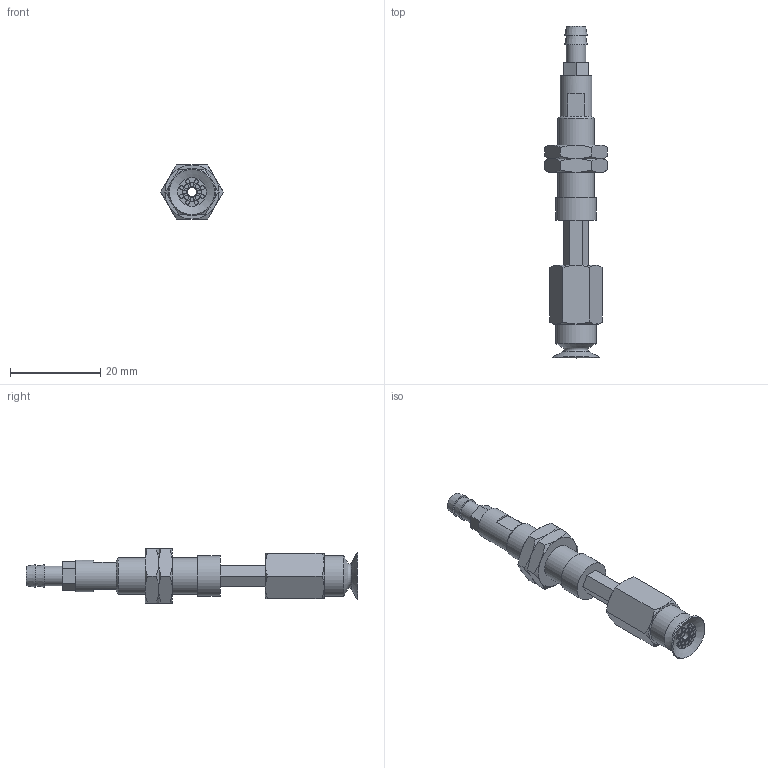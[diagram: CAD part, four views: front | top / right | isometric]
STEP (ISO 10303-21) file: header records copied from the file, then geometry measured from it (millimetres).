
FILE_DESCRIPTION(('STEP AP203'),'1');
FILE_NAME('-T.stp','2025-08-12T07:53:00',(' '),(' '),'Spatial InterOp 3D',' ',' ');
FILE_SCHEMA(('CONFIG_CONTROL_DESIGN'));
Length unit declared in the file: millimetre
Products named in the file (7): BNABPATH-10A-10-※-T; NAPATH-10A-10--F; Nut-10A-S; CONNECTOR-10A-3-T-PA; BPAG-10A-※; NAPATH-10A-10--M; ADAPTER
Assembly tree (7 placements, depth 2):
  BNABPATH-10A-10-※-T
    NAPATH-10A-10--F
    Nut-10A-S  x2
    CONNECTOR-10A-3-T-PA
    BPAG-10A-※
    NAPATH-10A-10--M
    ADAPTER
Bounding box: 13.86 x 73.5 x 12 mm (x, y, z)
Volume: 3670.5 mm3; surface area: 4565.1 mm2
Topology: 7 solids, 7 shells, 173 faces, 347 edges, 215 vertices
Faces by surface type: plane 81, cone 49, cylinder 33, torus 10
Full cylindrical faces by diameter (mm): 0.9 x16, 2 x3, 3 x1, 4 x2, 4.134 x1, 4.3 x1, 5 x1, 6 x2, 7 x1, 7.188 x2, 8 x1, 9 x2
Entity records: 4102 total; most frequent: CARTESIAN_POINT 864, DIRECTION 620, ORIENTED_EDGE 476, AXIS2_PLACEMENT_3D 272, EDGE_LOOP 242, EDGE_CURVE 238, FACE_OUTER_BOUND 192, VERTEX_POINT 180
